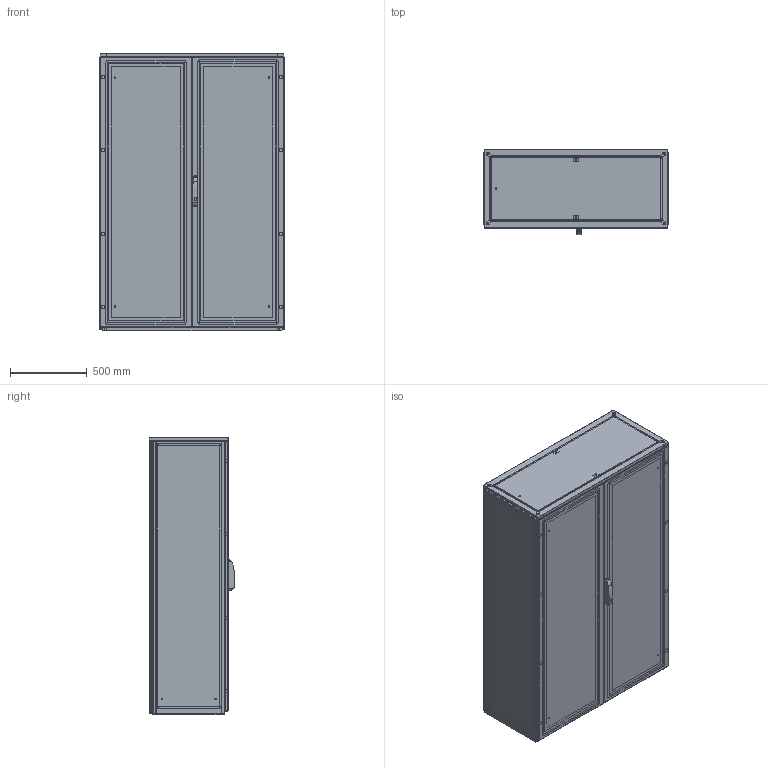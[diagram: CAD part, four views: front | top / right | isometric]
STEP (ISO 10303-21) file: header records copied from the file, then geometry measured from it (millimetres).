
FILE_DESCRIPTION(/* description */ ('STEP AP214'),/* implementation_level */ '2;1');
FILE_NAME(/* name */ 'ENUX121805PR -LOD350',/* time_stamp */ '2025-10-06T09:23:16+02:00',/* author */ ('License CC BY-ND 4.0'),/* organization */ ('CADENAS'),/* preprocessor_version */ 'ST-DEVELOPER v19.3',/* originating_system */ 'PARTsolutions',/* authorisation */ ' ');
FILE_SCHEMA (('AUTOMOTIVE_DESIGN {1 0 10303 214 3 1 1}'));
Length unit declared in the file: millimetre
Products named in the file (11): ENUX121805PR  -LOD350; ENUX121805PR  -LOD3501; ENUX121805PR  -LOD3507; ENUX121805PR  -LOD3502; ENUX121805PR  -LOD35011; ENUX121805PR  -LOD3503; ENUX121805PR  -LOD3508; ENUX121805PR  -LOD3505; ENUX121805PR  -LOD3504; ENUX121805PR  -LOD35010; ENUX121805PR  -LOD3509
Assembly tree (17 placements, depth 2):
  ENUX121805PR  -LOD350
    ENUX121805PR  -LOD3501
    ENUX121805PR  -LOD3507  x2
    ENUX121805PR  -LOD3502
    ENUX121805PR  -LOD35011
    ENUX121805PR  -LOD3503
    ENUX121805PR  -LOD3508
    ENUX121805PR  -LOD3505
    ENUX121805PR  -LOD3504
    ENUX121805PR  -LOD35010  x4
    ENUX121805PR  -LOD3509  x4
Bounding box: 1212 x 557 x 1808.5 mm (x, y, z)
Volume: 27087888.4 mm3; surface area: 21891520.9 mm2
Topology: 17 solids, 24 shells, 1518 faces, 4087 edges, 2672 vertices
Faces by surface type: plane 912, cylinder 556, torus 30, cone 12, sphere 8
Full cylindrical faces by diameter (mm): 6 x15, 9 x13, 12 x4, 14 x2, 17 x2, 28 x2
Entity records: 36582 total; most frequent: CARTESIAN_POINT 6695, DIRECTION 6211, ORIENTED_EDGE 6118, EDGE_CURVE 3059, AXIS2_PLACEMENT_3D 2071, LINE 2069, VECTOR 2069, VERTEX_POINT 2022
